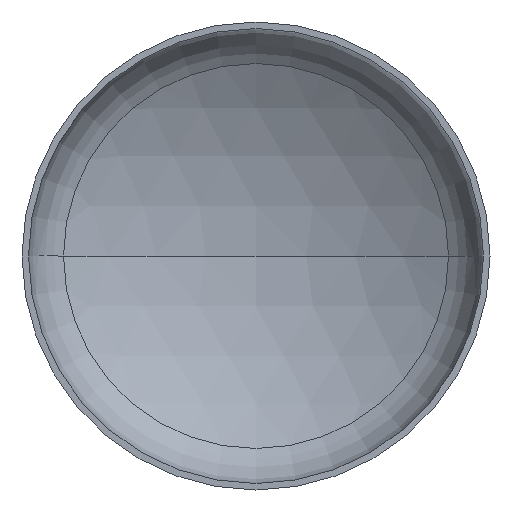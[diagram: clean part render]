
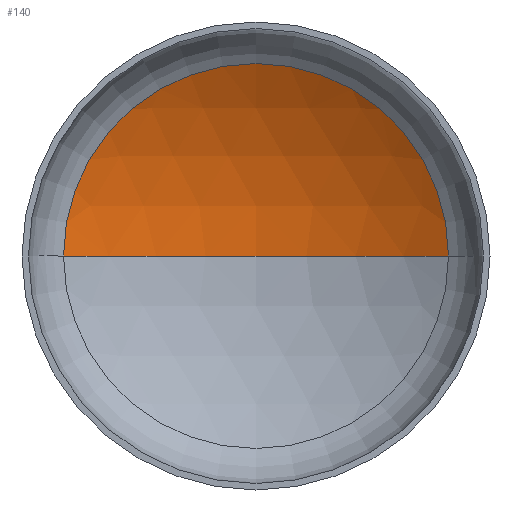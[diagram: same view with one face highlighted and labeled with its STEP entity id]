
A CAD part, front view. The second image highlights one B-rep face of the part: STEP entity #140.
In plain terms, the highlighted spherical face has radius 6400 mm.
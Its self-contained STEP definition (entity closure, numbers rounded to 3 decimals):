
#12 = DIRECTION ( 'NONE',  ( -1., 0., 0. ) ) ;
#30 = AXIS2_PLACEMENT_3D ( 'NONE', #165, #308, #12 ) ;
#32 = CARTESIAN_POINT ( 'NONE',  ( 0., 2040.596, 0. ) ) ;
#45 = AXIS2_PLACEMENT_3D ( 'NONE', #159, #273, #272 ) ;
#46 = AXIS2_PLACEMENT_3D ( 'NONE', #270, #268, #264 ) ;
#47 = AXIS2_PLACEMENT_3D ( 'NONE', #278, #276, #284 ) ;
#77 = EDGE_CURVE ( 'NONE', #340, #316, #169, .T. ) ;
#78 = EDGE_CURVE ( 'NONE', #231, #340, #245, .T. ) ;
#80 = EDGE_CURVE ( 'NONE', #231, #316, #379, .T. ) ;
#108 = ORIENTED_EDGE ( 'NONE', *, *, #80, .F. ) ;
#117 = CARTESIAN_POINT ( 'NONE',  ( -3290.368, 1129.994, 0. ) ) ;
#136 = ORIENTED_EDGE ( 'NONE', *, *, #77, .T. ) ;
#140 = ADVANCED_FACE ( 'NONE', ( #229 ), #366, .F. ) ;
#150 = ORIENTED_EDGE ( 'NONE', *, *, #78, .T. ) ;
#156 = EDGE_LOOP ( 'NONE', ( #108, #150, #136 ) ) ;
#159 = CARTESIAN_POINT ( 'NONE',  ( 0., -4359.404, 0. ) ) ;
#165 = CARTESIAN_POINT ( 'NONE',  ( 0., -4359.404, 0. ) ) ;
#169 = CIRCLE ( 'NONE', #47, 3290.368 ) ;
#229 = FACE_OUTER_BOUND ( 'NONE', #156, .T. ) ;
#231 = VERTEX_POINT ( 'NONE', #32 ) ;
#232 = CARTESIAN_POINT ( 'NONE',  ( 3290.368, 1129.994, 0. ) ) ;
#245 = CIRCLE ( 'NONE', #46, 6400. ) ;
#264 = DIRECTION ( 'NONE',  ( -1., 0., 0. ) ) ;
#268 = DIRECTION ( 'NONE',  ( 0., 0., -1. ) ) ;
#270 = CARTESIAN_POINT ( 'NONE',  ( 0., -4359.404, 0. ) ) ;
#272 = DIRECTION ( 'NONE',  ( 1., 0., 0. ) ) ;
#273 = DIRECTION ( 'NONE',  ( 0., 0., 1. ) ) ;
#276 = DIRECTION ( 'NONE',  ( 0., -1., 0. ) ) ;
#278 = CARTESIAN_POINT ( 'NONE',  ( 0., 1129.994, 0. ) ) ;
#284 = DIRECTION ( 'NONE',  ( 1., 0., 0. ) ) ;
#308 = DIRECTION ( 'NONE',  ( 0., 0., -1. ) ) ;
#316 = VERTEX_POINT ( 'NONE', #117 ) ;
#340 = VERTEX_POINT ( 'NONE', #232 ) ;
#366 = SPHERICAL_SURFACE ( 'NONE', #30, 6400. ) ;
#379 = CIRCLE ( 'NONE', #45, 6400. ) ;
